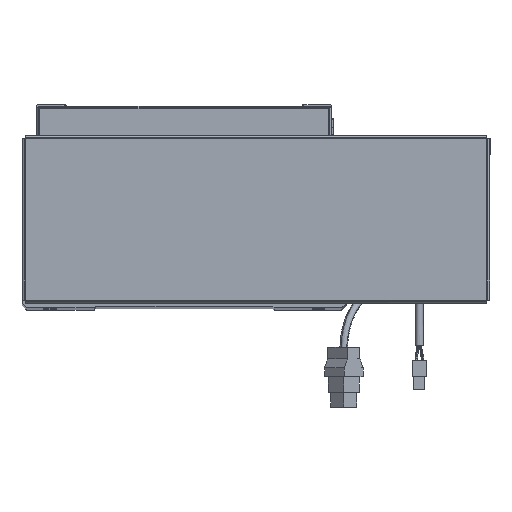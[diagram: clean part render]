
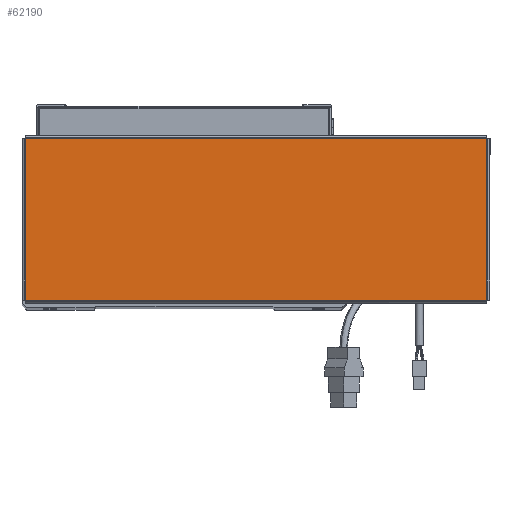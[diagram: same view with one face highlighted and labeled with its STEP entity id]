
A CAD part, top view. The second image highlights one B-rep face of the part: STEP entity #62190.
In plain terms, the highlighted planar face has unit normal (0, 0, 1).
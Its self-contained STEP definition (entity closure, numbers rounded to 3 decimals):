
#825 = CARTESIAN_POINT ( 'NONE',  ( -156.513, 54.793, 0. ) ) ;
#4772 = LINE ( 'NONE', #19616, #34852 ) ;
#5920 = DIRECTION ( 'NONE',  ( 0., -1., 0. ) ) ;
#8637 = PLANE ( 'NONE',  #25051 ) ;
#8662 = LINE ( 'NONE', #50079, #65731 ) ;
#8715 = ORIENTED_EDGE ( 'NONE', *, *, #26610, .T. ) ;
#10381 = CARTESIAN_POINT ( 'NONE',  ( -156.513, 54.763, 0. ) ) ;
#10496 = VECTOR ( 'NONE', #5920, 1000. ) ;
#13972 = DIRECTION ( 'NONE',  ( 1., 0., 0. ) ) ;
#14499 = ORIENTED_EDGE ( 'NONE', *, *, #49804, .T. ) ;
#17378 = EDGE_LOOP ( 'NONE', ( #37312, #8715, #14499, #45104 ) ) ;
#19179 = DIRECTION ( 'NONE',  ( 1., 0., 0. ) ) ;
#19466 = DIRECTION ( 'NONE',  ( 0., 0., 1. ) ) ;
#19616 = CARTESIAN_POINT ( 'NONE',  ( -156.543, -54.763, 0. ) ) ;
#19806 = VECTOR ( 'NONE', #27413, 1000. ) ;
#22561 = FACE_OUTER_BOUND ( 'NONE', #17378, .T. ) ;
#24183 = CARTESIAN_POINT ( 'NONE',  ( -156.513, -54.763, 0. ) ) ;
#25051 = AXIS2_PLACEMENT_3D ( 'NONE', #29590, #19466, #13972 ) ;
#26610 = EDGE_CURVE ( 'NONE', #31154, #43917, #47471, .T. ) ;
#26751 = CARTESIAN_POINT ( 'NONE',  ( 156.513, 54.763, 0. ) ) ;
#27413 = DIRECTION ( 'NONE',  ( 0., 1., 0. ) ) ;
#29590 = CARTESIAN_POINT ( 'NONE',  ( 0., 0., 0. ) ) ;
#31154 = VERTEX_POINT ( 'NONE', #51737 ) ;
#33474 = VERTEX_POINT ( 'NONE', #24183 ) ;
#34852 = VECTOR ( 'NONE', #19179, 1000. ) ;
#36678 = EDGE_CURVE ( 'NONE', #65100, #33474, #54806, .T. ) ;
#37312 = ORIENTED_EDGE ( 'NONE', *, *, #41188, .T. ) ;
#38259 = CARTESIAN_POINT ( 'NONE',  ( 156.513, -54.793, 0. ) ) ;
#41188 = EDGE_CURVE ( 'NONE', #33474, #31154, #4772, .T. ) ;
#43917 = VERTEX_POINT ( 'NONE', #26751 ) ;
#45104 = ORIENTED_EDGE ( 'NONE', *, *, #36678, .T. ) ;
#46746 = DIRECTION ( 'NONE',  ( -1., 0., 0. ) ) ;
#47471 = LINE ( 'NONE', #38259, #19806 ) ;
#49804 = EDGE_CURVE ( 'NONE', #43917, #65100, #8662, .T. ) ;
#50079 = CARTESIAN_POINT ( 'NONE',  ( 156.543, 54.763, 0. ) ) ;
#51737 = CARTESIAN_POINT ( 'NONE',  ( 156.513, -54.763, 0. ) ) ;
#54806 = LINE ( 'NONE', #825, #10496 ) ;
#62190 = ADVANCED_FACE ( 'NONE', ( #22561 ), #8637, .T. ) ;
#65100 = VERTEX_POINT ( 'NONE', #10381 ) ;
#65731 = VECTOR ( 'NONE', #46746, 1000. ) ;
